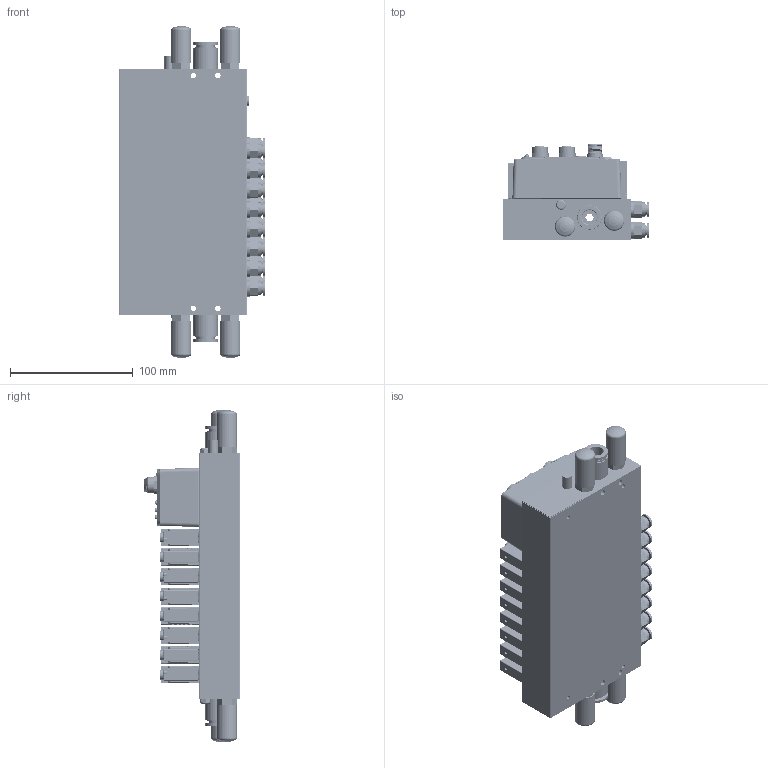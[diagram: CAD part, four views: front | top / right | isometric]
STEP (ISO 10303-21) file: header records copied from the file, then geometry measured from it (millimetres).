
FILE_DESCRIPTION(/* description */ (''),/* implementation_level */ '2;1');
FILE_NAME(/* name */ 'EV-XX-F2-8-X-XX-XX-A-X-C.stp',/* time_stamp */ '2025-09-30T10:19:44+08:00',/* author */ (''),/* organization */ (''),/* preprocessor_version */ 'ST-DEVELOPER v19.4',/* originating_system */ 'SIEMENS PLM Software NX2212.7001',/* authorisation */ '');
FILE_SCHEMA (('AUTOMOTIVE_DESIGN { 1 0 10303 214 3 1 1 1 }'));
Products named in the file (1): EV-EC-F2-A1B9X2-L-12-06-A-I-C_objects
Bounding box: 119.9 x 78.8 x 271 mm (x, y, z)
Volume: 910467.8 mm3; surface area: 286949.1 mm2
Topology: 32 solids, 61 shells, 8146 faces, 20997 edges, 13303 vertices
Faces by surface type: cylinder 3461, plane 3208, torus 761, cone 311, bspline 223, sphere 180, extrusion 2
Full cylindrical faces by diameter (mm): 1 x5, 1.05 x5, 1.2 x8, 1.4 x8, 1.5 x8, 1.7 x8, 2.05 x20, 2.15 x2, 2.3 x4, 2.48 x4, 2.5 x3, 2.8 x4, 3.3 x2, 3.446 x6, 3.5 x7, 3.7 x1, 4 x2, 4.134 x5, 4.3 x4, 4.5 x4, 5.1 x16, 5.3 x16, 5.4 x2, 5.5 x50, 6 x1, 6.2 x32, 8 x9, 8.1 x16, 8.3 x1, 8.566 x9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
Entity records: 303681 total; most frequent: CARTESIAN_POINT 62686, DIRECTION 42882, ORIENTED_EDGE 40394, EDGE_CURVE 20197, AXIS2_PLACEMENT_3D 16256, VERTEX_POINT 13046, VECTOR 10370, LINE 10368
